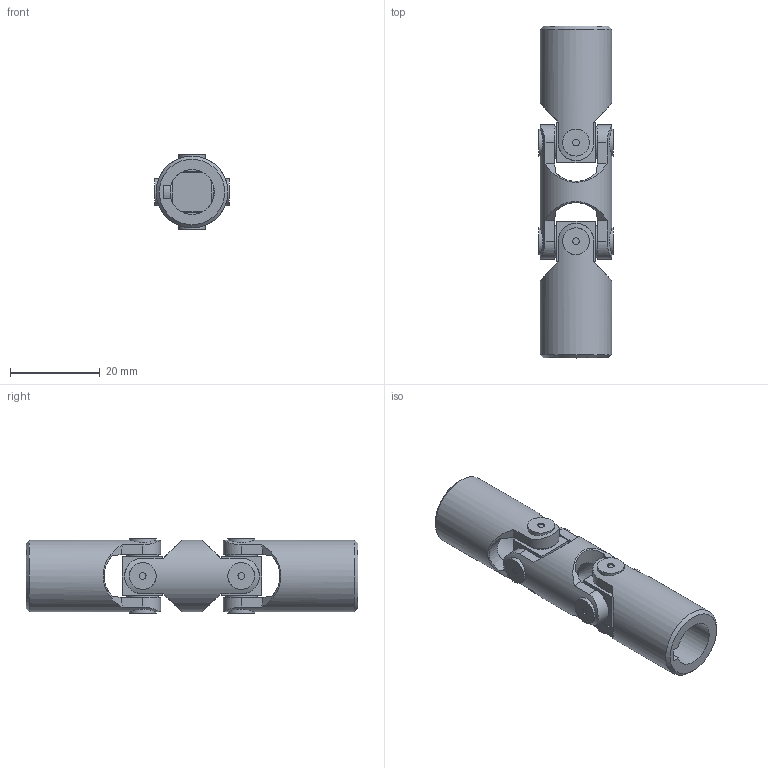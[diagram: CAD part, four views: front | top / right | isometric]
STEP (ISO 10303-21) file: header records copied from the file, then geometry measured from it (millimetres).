
FILE_DESCRIPTION(/* description */ (''),/* implementation_level */ '2;1');
FILE_NAME(/* name */ '\\SRV2016\Societa\Stefano\Disegni 3D\00Catalogo 3D\02Doppi GD-GBD\SGBD101C.stp',/* time_stamp */ '2021-11-22T16:59:21+01:00',/* author */ ('acquisti'),/* organization */ (''),/* preprocessor_version */ 'ST-DEVELOPER v15.6',/* originating_system */ 'Autodesk Inventor 2015',/* authorisation */ '');
FILE_SCHEMA (('AUTOMOTIVE_DESIGN { 1 0 10303 214 3 1 1 }'));
Length unit declared in the file: millimetre
Products named in the file (5): 01G MOD; 01-02G SFE; 03GB MOC; 03GB MOS; Ø16_03GBD-00_SGBD1000
Assembly tree (5 placements, depth 2):
  Ø16_03GBD-00_SGBD1000
    01G MOD
    01-02G SFE  x2
    03GB MOC
    03GB MOS
Bounding box: 16.7 x 74 x 16.7 mm (x, y, z)
Volume: 9098.3 mm3; surface area: 7139.4 mm2
Topology: 5 solids, 5 shells, 142 faces, 362 edges, 248 vertices
Faces by surface type: plane 77, cylinder 39, cone 20, torus 6
Full cylindrical faces by diameter (mm): 1.5 x8, 6 x8, 7 x8, 8.5 x2, 10 x1, 16 x3
Entity records: 4435 total; most frequent: CARTESIAN_POINT 1545, ORIENTED_EDGE 564, DIRECTION 553, EDGE_CURVE 282, AXIS2_PLACEMENT_3D 237, VERTEX_POINT 210, EDGE_LOOP 182, FACE_OUTER_BOUND 128
